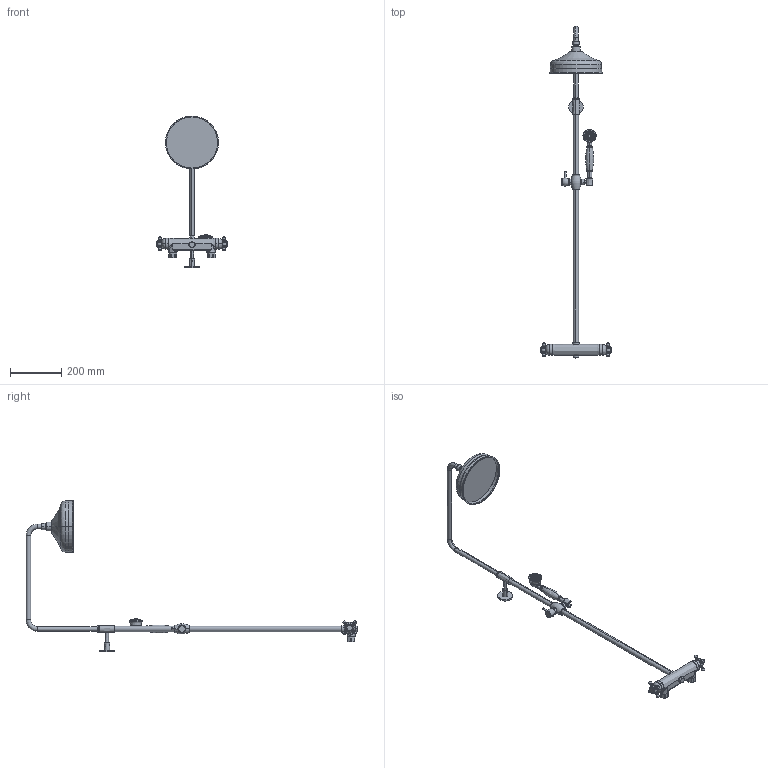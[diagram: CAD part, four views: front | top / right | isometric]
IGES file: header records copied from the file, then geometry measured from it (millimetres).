
Start section:  PTC IGES file: 37931_web.igs
Global section: file name: 37931_web.igs; native system: Creo Parametric by PTC Inc.; preprocessor: 2018190; author: jaje1; organization: Unknown; date: 20190109.145744; units: millimetre
Bounding box: 278.6 x 1296.25 x 593.04 mm (x, y, z)
Surface area: 316587.9 mm2 (no closed solid volume)
Topology: 0 solids, 0 shells, 370 faces, 1707 edges, 1687 vertices
Faces by surface type: revolution 273, bspline 97
